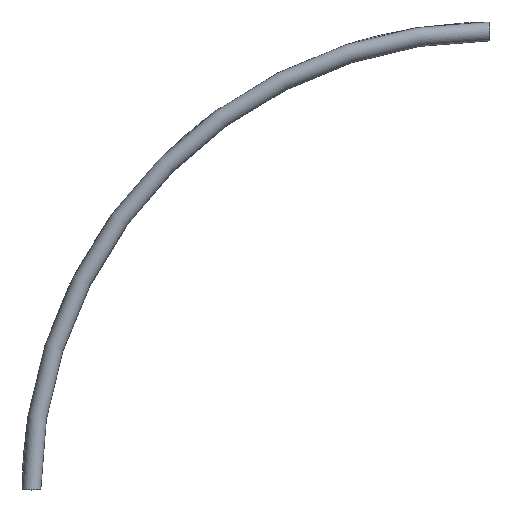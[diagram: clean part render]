
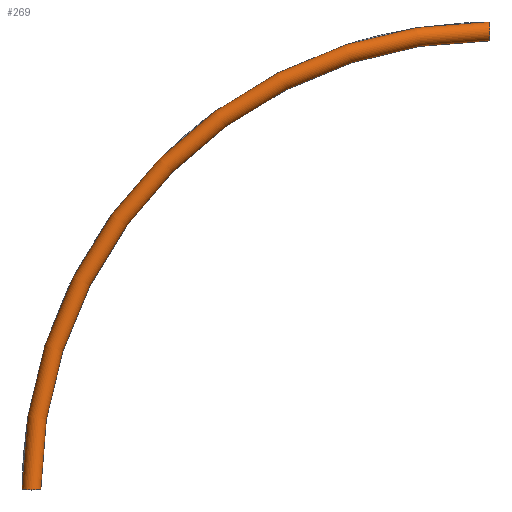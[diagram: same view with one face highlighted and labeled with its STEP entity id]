
A CAD part, top view. The second image highlights one B-rep face of the part: STEP entity #269.
In plain terms, the highlighted toroidal (fillet/blend) face has major radius 1225 mm and minor radius 25 mm.
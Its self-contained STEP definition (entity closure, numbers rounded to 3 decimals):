
#264 = VERTEX_POINT ( 'NONE', #1476 ) ;
#265 = ORIENTED_EDGE ( 'NONE', *, *, #266, .T. ) ;
#266 = EDGE_CURVE ( 'NONE', #264, #267, #1475, .T. ) ;
#267 = VERTEX_POINT ( 'NONE', #1470 ) ;
#269 = ADVANCED_FACE ( 'NONE', ( #1469 ), #1468, .T. ) ;
#270 = EDGE_LOOP ( 'NONE', ( #271, #345, #265, #280 ) ) ;
#271 = ORIENTED_EDGE ( 'NONE', *, *, #343, .F. ) ;
#272 = VERTEX_POINT ( 'NONE', #1463 ) ;
#280 = ORIENTED_EDGE ( 'NONE', *, *, #281, .F. ) ;
#281 = EDGE_CURVE ( 'NONE', #344, #267, #1501, .T. ) ;
#343 = EDGE_CURVE ( 'NONE', #272, #344, #1782, .T. ) ;
#344 = VERTEX_POINT ( 'NONE', #1823 ) ;
#345 = ORIENTED_EDGE ( 'NONE', *, *, #346, .T. ) ;
#346 = EDGE_CURVE ( 'NONE', #272, #264, #1822, .T. ) ;
#1463 = CARTESIAN_POINT ( 'NONE',  ( 0., 1250., 0. ) ) ;
#1464 = DIRECTION ( 'NONE',  ( 1., 0., 0. ) ) ;
#1465 = DIRECTION ( 'NONE',  ( 0., 0., 1. ) ) ;
#1466 = AXIS2_PLACEMENT_3D ( 'NONE', #1467, #1465, #1464 ) ;
#1467 = CARTESIAN_POINT ( 'NONE',  ( 0., 0., 0. ) ) ;
#1468 = TOROIDAL_SURFACE ( 'NONE', #1466, 1225., 25. ) ;
#1469 = FACE_OUTER_BOUND ( 'NONE', #270, .T. ) ;
#1470 = CARTESIAN_POINT ( 'NONE',  ( -1200., 0., 0. ) ) ;
#1471 = DIRECTION ( 'NONE',  ( 0., 0., 1. ) ) ;
#1472 = DIRECTION ( 'NONE',  ( 0., 1., 0. ) ) ;
#1473 = CARTESIAN_POINT ( 'NONE',  ( -1225., 0., 0. ) ) ;
#1474 = AXIS2_PLACEMENT_3D ( 'NONE', #1473, #1472, #1471 ) ;
#1475 = CIRCLE ( 'NONE', #1474, 25. ) ;
#1476 = CARTESIAN_POINT ( 'NONE',  ( -1250., 0., 0. ) ) ;
#1497 = DIRECTION ( 'NONE',  ( 1., 0., 0. ) ) ;
#1498 = DIRECTION ( 'NONE',  ( 0., 0., 1. ) ) ;
#1499 = CARTESIAN_POINT ( 'NONE',  ( 0., 0., 0. ) ) ;
#1500 = AXIS2_PLACEMENT_3D ( 'NONE', #1499, #1498, #1497 ) ;
#1501 = CIRCLE ( 'NONE', #1500, 1200. ) ;
#1778 = DIRECTION ( 'NONE',  ( 0., 0., 1. ) ) ;
#1779 = DIRECTION ( 'NONE',  ( 1., 0., 0. ) ) ;
#1780 = CARTESIAN_POINT ( 'NONE',  ( 0., 1225., 0. ) ) ;
#1781 = AXIS2_PLACEMENT_3D ( 'NONE', #1780, #1779, #1778 ) ;
#1782 = CIRCLE ( 'NONE', #1781, 25. ) ;
#1818 = DIRECTION ( 'NONE',  ( 1., 0., 0. ) ) ;
#1819 = DIRECTION ( 'NONE',  ( 0., 0., 1. ) ) ;
#1820 = CARTESIAN_POINT ( 'NONE',  ( 0., 0., 0. ) ) ;
#1821 = AXIS2_PLACEMENT_3D ( 'NONE', #1820, #1819, #1818 ) ;
#1822 = CIRCLE ( 'NONE', #1821, 1250. ) ;
#1823 = CARTESIAN_POINT ( 'NONE',  ( 0., 1200., 0. ) ) ;
